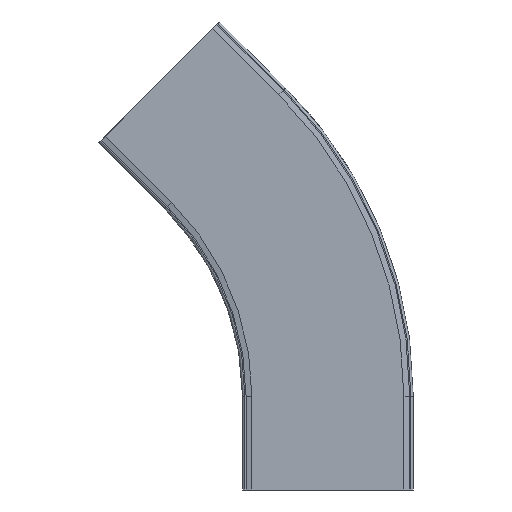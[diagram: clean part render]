
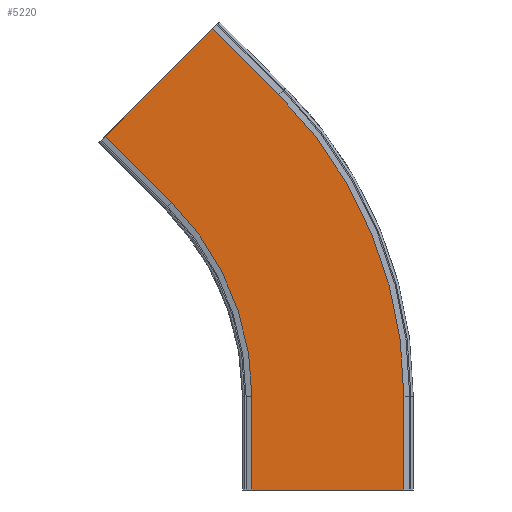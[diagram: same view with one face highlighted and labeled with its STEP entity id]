
A CAD part, front view. The second image highlights one B-rep face of the part: STEP entity #5220.
In plain terms, the highlighted planar face has unit normal (0, -1, 0).
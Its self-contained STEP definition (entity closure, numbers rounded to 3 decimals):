
#4977=CARTESIAN_POINT('',(104.,-74.,0.0));
#4978=VERTEX_POINT('',#4977);
#4985=CARTESIAN_POINT('',(-26.,-74.,0.0));
#4986=VERTEX_POINT('',#4985);
#4987=CARTESIAN_POINT('',(-26.,-74.,0.0));
#4988=DIRECTION('',(1.0,0.0,0.0));
#4989=VECTOR('',#4988,130.);
#4990=LINE('',#4987,#4989);
#4991=EDGE_CURVE('',#4986,#4978,#4990,.T.);
#5046=CARTESIAN_POINT('',(-26.,-74.,80.0));
#5047=VERTEX_POINT('',#5046);
#5056=CARTESIAN_POINT('',(-26.,-74.,0.0));
#5057=DIRECTION('',(0.0,0.0,1.0));
#5058=VECTOR('',#5057,80.0);
#5059=LINE('',#5056,#5058);
#5060=EDGE_CURVE('',#4986,#5047,#5059,.T.);
#5070=CARTESIAN_POINT('',(104.,-74.,80.0));
#5071=VERTEX_POINT('',#5070);
#5080=CARTESIAN_POINT('',(104.,-74.,0.0));
#5081=DIRECTION('',(0.0,0.0,1.0));
#5082=VECTOR('',#5081,80.0);
#5083=LINE('',#5080,#5082);
#5084=EDGE_CURVE('',#4978,#5071,#5083,.T.);
#5103=CARTESIAN_POINT('',(-94.83,-74.,246.17));
#5104=VERTEX_POINT('',#5103);
#5119=CARTESIAN_POINT('',(-261.,-74.,80.0));
#5120=DIRECTION('',(0.0,-1.0,0.0));
#5121=DIRECTION('',(1.0,0.0,0.0));
#5122=AXIS2_PLACEMENT_3D('',#5119,#5120,#5121);
#5123=CIRCLE('',#5122,235.);
#5124=EDGE_CURVE('',#5047,#5104,#5123,.T.);
#5178=CARTESIAN_POINT('',(220.271,-74.,114.917));
#5179=DIRECTION('',(0.0,-1.0,0.0));
#5180=DIRECTION('',(0.707,0.0,-0.707));
#5181=AXIS2_PLACEMENT_3D('',#5178,#5179,#5180);
#5182=PLANE('',#5181);
#5183=CARTESIAN_POINT('',(-59.475,-74.,394.663));
#5184=VERTEX_POINT('',#5183);
#5185=CARTESIAN_POINT('',(-151.398,-74.,302.739));
#5186=VERTEX_POINT('',#5185);
#5187=CARTESIAN_POINT('',(-59.475,-74.,394.663));
#5188=DIRECTION('',(-0.707,0.,-0.707));
#5189=VECTOR('',#5188,130.);
#5190=LINE('',#5187,#5189);
#5191=EDGE_CURVE('',#5184,#5186,#5190,.T.);
#5192=ORIENTED_EDGE('',*,*,#5191,.T.);
#5193=CARTESIAN_POINT('',(-94.83,-74.,246.17));
#5194=DIRECTION('',(-0.707,0.,0.707));
#5195=VECTOR('',#5194,80.);
#5196=LINE('',#5193,#5195);
#5197=EDGE_CURVE('',#5104,#5186,#5196,.T.);
#5198=ORIENTED_EDGE('',*,*,#5197,.F.);
#5199=ORIENTED_EDGE('',*,*,#5124,.F.);
#5200=ORIENTED_EDGE('',*,*,#5060,.F.);
#5201=ORIENTED_EDGE('',*,*,#4991,.T.);
#5202=ORIENTED_EDGE('',*,*,#5084,.T.);
#5203=CARTESIAN_POINT('',(-2.906,-74.,338.094));
#5204=VERTEX_POINT('',#5203);
#5205=CARTESIAN_POINT('',(-261.,-74.,80.0));
#5206=DIRECTION('',(0.0,-1.0,0.0));
#5207=DIRECTION('',(1.0,0.0,0.0));
#5208=AXIS2_PLACEMENT_3D('',#5205,#5206,#5207);
#5209=CIRCLE('',#5208,365.);
#5210=EDGE_CURVE('',#5071,#5204,#5209,.T.);
#5211=ORIENTED_EDGE('',*,*,#5210,.T.);
#5212=CARTESIAN_POINT('',(-2.906,-74.,338.094));
#5213=DIRECTION('',(-0.707,0.,0.707));
#5214=VECTOR('',#5213,80.);
#5215=LINE('',#5212,#5214);
#5216=EDGE_CURVE('',#5204,#5184,#5215,.T.);
#5217=ORIENTED_EDGE('',*,*,#5216,.T.);
#5218=EDGE_LOOP('',(#5192,#5198,#5199,#5200,#5201,#5202,#5211,#5217));
#5219=FACE_OUTER_BOUND('',#5218,.T.);
#5220=ADVANCED_FACE('',(#5219),#5182,.T.);
